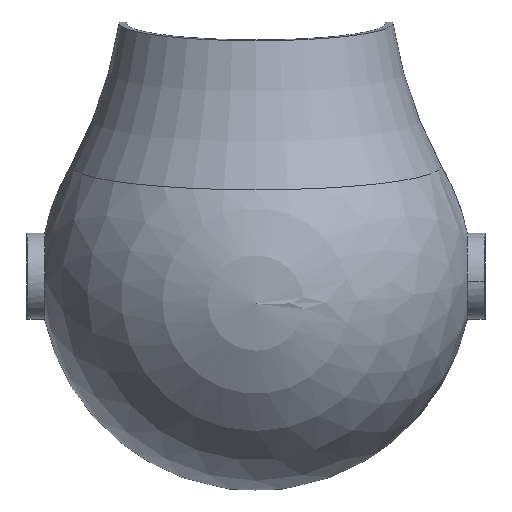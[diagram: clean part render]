
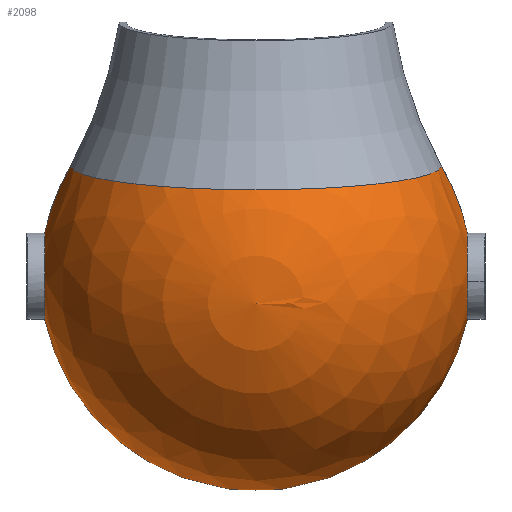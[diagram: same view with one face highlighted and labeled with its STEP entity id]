
A CAD part, front view. The second image highlights one B-rep face of the part: STEP entity #2098.
In plain terms, the highlighted spherical face has radius 30.1 mm.
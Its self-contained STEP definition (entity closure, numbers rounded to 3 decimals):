
#1771 = EDGE_CURVE('',#1772,#1774,#1776,.T.);
#1772 = VERTEX_POINT('',#1773);
#1773 = CARTESIAN_POINT('',(29.496,-6.,0.));
#1774 = VERTEX_POINT('',#1775);
#1775 = CARTESIAN_POINT('',(29.496,0.,-6.));
#1776 = CIRCLE('',#1777,6.);
#1777 = AXIS2_PLACEMENT_3D('',#1778,#1779,#1780);
#1778 = CARTESIAN_POINT('',(29.496,0.,0.));
#1779 = DIRECTION('',(1.,0.,-0.));
#1780 = DIRECTION('',(0.,0.,1.));
#1908 = VERTEX_POINT('',#1909);
#1909 = CARTESIAN_POINT('',(25.811,-15.486,0.));
#1916 = EDGE_CURVE('',#1917,#1908,#1919,.T.);
#1917 = VERTEX_POINT('',#1918);
#1918 = CARTESIAN_POINT('',(-25.811,-15.486,
    0.));
#1919 = CIRCLE('',#1920,25.811);
#1920 = AXIS2_PLACEMENT_3D('',#1921,#1922,#1923);
#1921 = CARTESIAN_POINT('',(0.,-15.486,0.));
#1922 = DIRECTION('',(0.,-1.,0.));
#1923 = DIRECTION('',(1.,0.,0.));
#2007 = EDGE_CURVE('',#2008,#2010,#2012,.T.);
#2008 = VERTEX_POINT('',#2009);
#2009 = CARTESIAN_POINT('',(0.,30.1,0.));
#2010 = VERTEX_POINT('',#2011);
#2011 = CARTESIAN_POINT('',(29.496,6.,0.));
#2012 = CIRCLE('',#2013,30.1);
#2013 = AXIS2_PLACEMENT_3D('',#2014,#2015,#2016);
#2014 = CARTESIAN_POINT('',(0.,0.,0.));
#2015 = DIRECTION('',(0.,0.,-1.));
#2016 = DIRECTION('',(-1.,0.,0.));
#2018 = EDGE_CURVE('',#2008,#2019,#2021,.T.);
#2019 = VERTEX_POINT('',#2020);
#2020 = CARTESIAN_POINT('',(-29.496,6.,0.));
#2021 = CIRCLE('',#2022,30.1);
#2022 = AXIS2_PLACEMENT_3D('',#2023,#2024,#2025);
#2023 = CARTESIAN_POINT('',(0.,0.,0.));
#2024 = DIRECTION('',(0.,0.,1.));
#2025 = DIRECTION('',(1.,0.,0.));
#2063 = VERTEX_POINT('',#2064);
#2064 = CARTESIAN_POINT('',(-29.496,-6.,0.));
#2071 = EDGE_CURVE('',#2063,#1917,#2072,.T.);
#2072 = CIRCLE('',#2073,30.1);
#2073 = AXIS2_PLACEMENT_3D('',#2074,#2075,#2076);
#2074 = CARTESIAN_POINT('',(0.,0.,0.));
#2075 = DIRECTION('',(0.,0.,1.));
#2076 = DIRECTION('',(1.,0.,0.));
#2098 = ADVANCED_FACE('',(#2099),#2141,.T.);
#2099 = FACE_BOUND('',#2100,.T.);
#2100 = EDGE_LOOP('',(#2101,#2102,#2103,#2110,#2123,#2124,#2125,#2132,
    #2133,#2134));
#2101 = ORIENTED_EDGE('',*,*,#2018,.F.);
#2102 = ORIENTED_EDGE('',*,*,#2007,.T.);
#2103 = ORIENTED_EDGE('',*,*,#2104,.F.);
#2104 = EDGE_CURVE('',#1774,#2010,#2105,.T.);
#2105 = CIRCLE('',#2106,6.);
#2106 = AXIS2_PLACEMENT_3D('',#2107,#2108,#2109);
#2107 = CARTESIAN_POINT('',(29.496,0.,0.));
#2108 = DIRECTION('',(1.,0.,-0.));
#2109 = DIRECTION('',(0.,0.,1.));
#2110 = ORIENTED_EDGE('',*,*,#2111,.F.);
#2111 = EDGE_CURVE('',#2112,#1774,#2114,.T.);
#2112 = VERTEX_POINT('',#2113);
#2113 = CARTESIAN_POINT('',(0.,0.,-30.1)
  );
#2114 = B_SPLINE_CURVE_WITH_KNOTS('',7,(#2115,#2116,#2117,#2118,#2119,
    #2120,#2121,#2122),.UNSPECIFIED.,.F.,.F.,(8,8),(-1.571,
    -0.201),.PIECEWISE_BEZIER_KNOTS.);
#2115 = CARTESIAN_POINT('',(0.,0.,-30.1));
#2116 = CARTESIAN_POINT('',(5.892,0.,-30.1));
#2117 = CARTESIAN_POINT('',(11.783,0.,
    -28.755));
#2118 = CARTESIAN_POINT('',(17.306,0.,
    -26.064));
#2119 = CARTESIAN_POINT('',(22.091,0.,
    -22.154));
#2120 = CARTESIAN_POINT('',(25.829,0.,
    -17.278));
#2121 = CARTESIAN_POINT('',(28.322,0.,
    -11.773));
#2122 = CARTESIAN_POINT('',(29.496,0.,-6.));
#2123 = ORIENTED_EDGE('',*,*,#2111,.T.);
#2124 = ORIENTED_EDGE('',*,*,#1771,.F.);
#2125 = ORIENTED_EDGE('',*,*,#2126,.T.);
#2126 = EDGE_CURVE('',#1772,#1908,#2127,.T.);
#2127 = CIRCLE('',#2128,30.1);
#2128 = AXIS2_PLACEMENT_3D('',#2129,#2130,#2131);
#2129 = CARTESIAN_POINT('',(0.,0.,0.));
#2130 = DIRECTION('',(0.,0.,-1.));
#2131 = DIRECTION('',(-1.,0.,0.));
#2132 = ORIENTED_EDGE('',*,*,#1916,.F.);
#2133 = ORIENTED_EDGE('',*,*,#2071,.F.);
#2134 = ORIENTED_EDGE('',*,*,#2135,.T.);
#2135 = EDGE_CURVE('',#2063,#2019,#2136,.T.);
#2136 = CIRCLE('',#2137,6.);
#2137 = AXIS2_PLACEMENT_3D('',#2138,#2139,#2140);
#2138 = CARTESIAN_POINT('',(-29.496,0.,0.));
#2139 = DIRECTION('',(1.,0.,0.));
#2140 = DIRECTION('',(0.,0.,-1.));
#2141 = SPHERICAL_SURFACE('',#2142,30.1);
#2142 = AXIS2_PLACEMENT_3D('',#2143,#2144,#2145);
#2143 = CARTESIAN_POINT('',(0.,0.,0.));
#2144 = DIRECTION('',(0.,-0.,1.));
#2145 = DIRECTION('',(1.,0.,0.));
